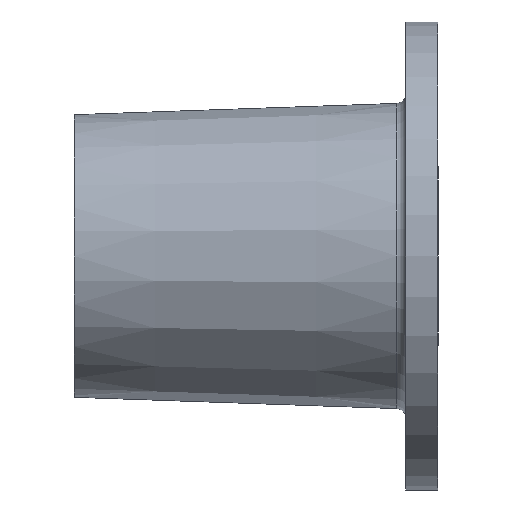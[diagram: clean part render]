
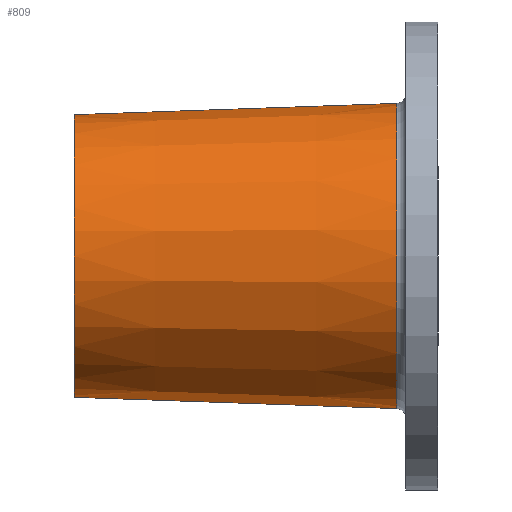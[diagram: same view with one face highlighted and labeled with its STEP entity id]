
A CAD part, left-side view. The second image highlights one B-rep face of the part: STEP entity #809.
In plain terms, the highlighted conical face has half-angle 2 degrees and reference radius 69.017 mm.
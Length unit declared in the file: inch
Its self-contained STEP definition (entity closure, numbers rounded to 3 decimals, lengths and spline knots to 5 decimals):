
#122 = EDGE_LOOP ( 'NONE', ( #3987, #5410, #3565, #4592 ) ) ;
#260 = VECTOR ( 'NONE', #6102, 39.37008 ) ;
#400 = LINE ( 'NONE', #6038, #4190 ) ;
#728 = CIRCLE ( 'NONE', #1581, 2.71721 ) ;
#809 = ADVANCED_FACE ( 'NONE', ( #5134 ), #4968, .T. ) ;
#862 = EDGE_CURVE ( 'NONE', #2776, #5681, #2561, .T. ) ;
#1216 = CARTESIAN_POINT ( 'NONE',  ( 0., 0.79372, 2.93393 ) ) ;
#1229 = DIRECTION ( 'NONE',  ( 0., 0., -1. ) ) ;
#1262 = DIRECTION ( 'NONE',  ( 0., 1., 0. ) ) ;
#1535 = CARTESIAN_POINT ( 'NONE',  ( 0., 7., -2.71721 ) ) ;
#1554 = VERTEX_POINT ( 'NONE', #1535 ) ;
#1581 = AXIS2_PLACEMENT_3D ( 'NONE', #5441, #5440, #5435 ) ;
#1595 = LINE ( 'NONE', #6036, #260 ) ;
#1618 = CARTESIAN_POINT ( 'NONE',  ( 0., 0.79372, 0. ) ) ;
#2011 = CARTESIAN_POINT ( 'NONE',  ( 0., 7., 2.71721 ) ) ;
#2077 = VERTEX_POINT ( 'NONE', #2011 ) ;
#2561 = CIRCLE ( 'NONE', #5933, 2.93393 ) ;
#2776 = VERTEX_POINT ( 'NONE', #6265 ) ;
#2875 = EDGE_CURVE ( 'NONE', #1554, #2776, #400, .T. ) ;
#3043 = EDGE_CURVE ( 'NONE', #2077, #1554, #728, .T. ) ;
#3565 = ORIENTED_EDGE ( 'NONE', *, *, #2875, .T. ) ;
#3987 = ORIENTED_EDGE ( 'NONE', *, *, #4504, .F. ) ;
#4190 = VECTOR ( 'NONE', #6003, 39.37008 ) ;
#4504 = EDGE_CURVE ( 'NONE', #2077, #5681, #1595, .T. ) ;
#4592 = ORIENTED_EDGE ( 'NONE', *, *, #862, .T. ) ;
#4968 = CONICAL_SURFACE ( 'NONE', #5269, 2.71721, 0.035 ) ;
#5134 = FACE_OUTER_BOUND ( 'NONE', #122, .T. ) ;
#5269 = AXIS2_PLACEMENT_3D ( 'NONE', #6045, #6021, #5604 ) ;
#5410 = ORIENTED_EDGE ( 'NONE', *, *, #3043, .T. ) ;
#5435 = DIRECTION ( 'NONE',  ( 0., 0., -1. ) ) ;
#5440 = DIRECTION ( 'NONE',  ( 0., -1., 0. ) ) ;
#5441 = CARTESIAN_POINT ( 'NONE',  ( 0., 7., 0. ) ) ;
#5604 = DIRECTION ( 'NONE',  ( 0., 0., -1. ) ) ;
#5681 = VERTEX_POINT ( 'NONE', #1216 ) ;
#5933 = AXIS2_PLACEMENT_3D ( 'NONE', #1618, #1262, #1229 ) ;
#6003 = DIRECTION ( 'NONE',  ( 0., -0.999, -0.035 ) ) ;
#6021 = DIRECTION ( 'NONE',  ( 0., -1., 0. ) ) ;
#6036 = CARTESIAN_POINT ( 'NONE',  ( 0., 7., 2.71721 ) ) ;
#6038 = CARTESIAN_POINT ( 'NONE',  ( 0., 7., -2.71721 ) ) ;
#6045 = CARTESIAN_POINT ( 'NONE',  ( 0., 7., 0. ) ) ;
#6102 = DIRECTION ( 'NONE',  ( 0., -0.999, 0.035 ) ) ;
#6265 = CARTESIAN_POINT ( 'NONE',  ( 0., 0.79372, -2.93393 ) ) ;
